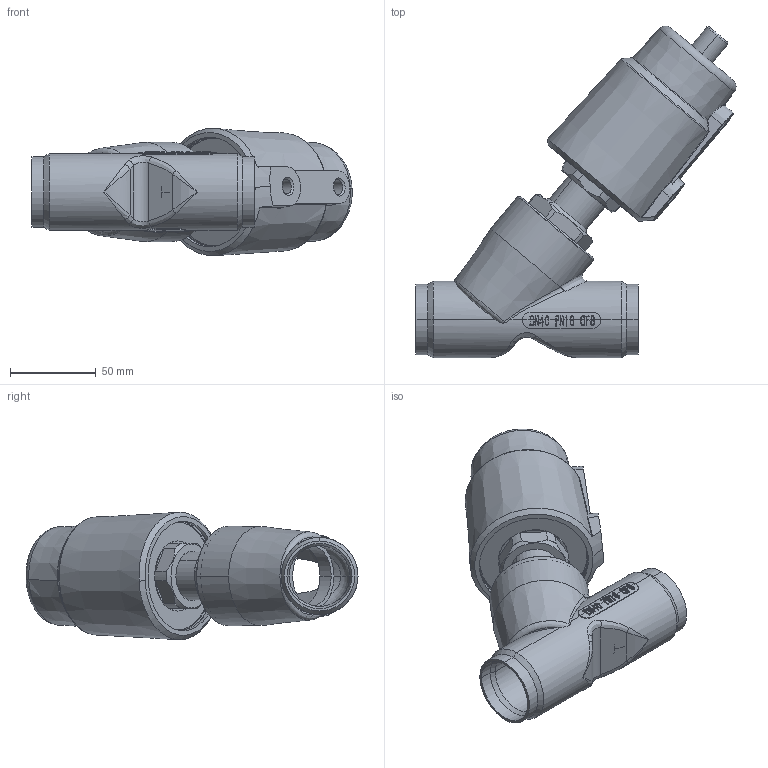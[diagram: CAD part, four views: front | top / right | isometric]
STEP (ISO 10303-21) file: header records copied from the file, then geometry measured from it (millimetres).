
FILE_DESCRIPTION (( 'STEP AP203' ), '1' );
FILE_NAME ('11850-2梓袧爾諉6340褒概.STEP', '2019-07-18T06:39:17', ( 'User' ), ( 'china' ), 'SwSTEP 2.0', 'SolidWorks 2017', '' );
FILE_SCHEMA (( 'CONFIG_CONTROL_DESIGN' ));
Length unit declared in the file: millimetre
Products named in the file (11): 6340蟀諉; 63傷裔; 634001H20爾諉概极41  1.5; 63詰芠; 400011弝敦; 11850-2梓袧爾諉6340褒概
Assembly tree (5 placements, depth 2):
  6340蟀諉
  63傷裔
  63詰芠
  400011弝敦
  11850-2梓袧爾諉6340褒概
    634001H20爾諉概极41  1.5
    6340蟀諉
    63傷裔
    63詰芠
    400011弝敦
Bounding box: 187.11 x 194.03 x 74.56 mm (x, y, z)
Volume: 268495.9 mm3; surface area: 125021.5 mm2
Topology: 5 solids, 5 shells, 592 faces, 1542 edges, 983 vertices
Faces by surface type: bspline 218, cylinder 146, plane 117, cone 76, torus 35
Entity records: 41115 total; most frequent: CARTESIAN_POINT 27506, ORIENTED_EDGE 3070, DIRECTION 1958, EDGE_CURVE 1535, VERTEX_POINT 983, AXIS2_PLACEMENT_3D 819, B_SPLINE_CURVE_WITH_KNOTS 756, EDGE_LOOP 636
